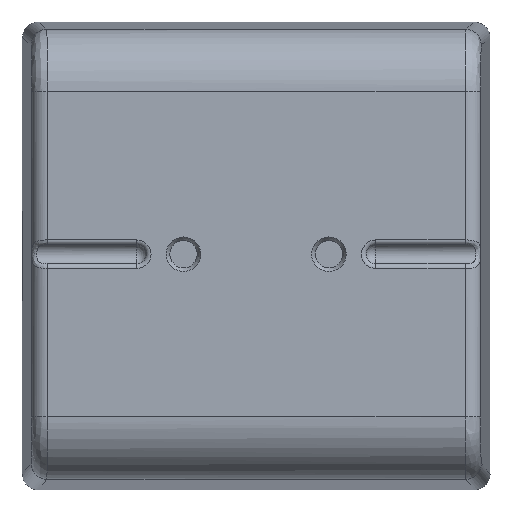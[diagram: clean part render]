
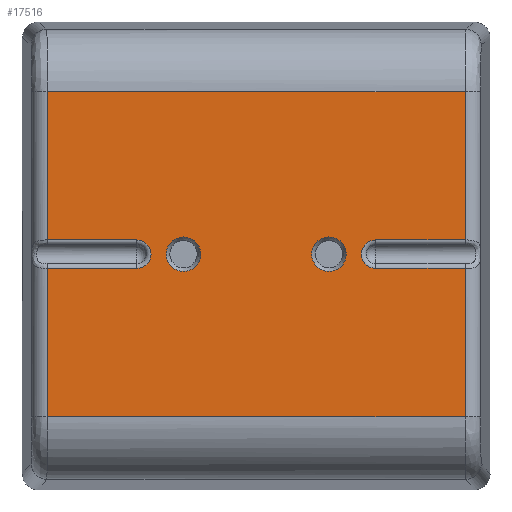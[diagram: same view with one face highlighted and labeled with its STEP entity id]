
A CAD part, top view. The second image highlights one B-rep face of the part: STEP entity #17516.
In plain terms, the highlighted planar face has unit normal (0, 0, 1).
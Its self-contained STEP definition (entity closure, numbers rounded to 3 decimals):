
#172=FACE_BOUND('',#1563,.T.);
#173=FACE_BOUND('',#1564,.T.);
#380=CIRCLE('',#18458,1.659);
#381=CIRCLE('',#18460,1.375);
#382=CIRCLE('',#18461,1.375);
#383=CIRCLE('',#18462,1.659);
#653=FACE_OUTER_BOUND('',#1562,.T.);
#1562=EDGE_LOOP('',(#11538,#11539,#11540,#11541,#11542,#11543,#11544,#11545,
#11546,#11547,#11548,#11549));
#1563=EDGE_LOOP('',(#11550));
#1564=EDGE_LOOP('',(#11551));
#2621=LINE('',#24587,#4925);
#2622=LINE('',#24589,#4926);
#2623=LINE('',#24591,#4927);
#2624=LINE('',#24593,#4928);
#2625=LINE('',#24595,#4929);
#2626=LINE('',#24599,#4930);
#2627=LINE('',#24601,#4931);
#2628=LINE('',#24603,#4932);
#2629=LINE('',#24605,#4933);
#2630=LINE('',#24607,#4934);
#4925=VECTOR('',#19763,8.614);
#4926=VECTOR('',#19764,14.281);
#4927=VECTOR('',#19765,40.228);
#4928=VECTOR('',#19766,14.281);
#4929=VECTOR('',#19767,8.614);
#4930=VECTOR('',#19770,8.614);
#4931=VECTOR('',#19771,14.281);
#4932=VECTOR('',#19772,40.228);
#4933=VECTOR('',#19773,14.281);
#4934=VECTOR('',#19774,8.614);
#7243=VERTEX_POINT('',#24581);
#7244=VERTEX_POINT('',#24585);
#7245=VERTEX_POINT('',#24586);
#7246=VERTEX_POINT('',#24588);
#7247=VERTEX_POINT('',#24590);
#7248=VERTEX_POINT('',#24592);
#7249=VERTEX_POINT('',#24594);
#7250=VERTEX_POINT('',#24596);
#7251=VERTEX_POINT('',#24598);
#7252=VERTEX_POINT('',#24600);
#7253=VERTEX_POINT('',#24602);
#7254=VERTEX_POINT('',#24604);
#7255=VERTEX_POINT('',#24606);
#7256=VERTEX_POINT('',#24609);
#8892=EDGE_CURVE('',#7243,#7243,#380,.T.);
#8893=EDGE_CURVE('',#7244,#7245,#2621,.T.);
#8894=EDGE_CURVE('',#7246,#7244,#2622,.T.);
#8895=EDGE_CURVE('',#7247,#7246,#2623,.T.);
#8896=EDGE_CURVE('',#7248,#7247,#2624,.T.);
#8897=EDGE_CURVE('',#7249,#7248,#2625,.T.);
#8898=EDGE_CURVE('',#7250,#7249,#381,.T.);
#8899=EDGE_CURVE('',#7251,#7250,#2626,.T.);
#8900=EDGE_CURVE('',#7252,#7251,#2627,.T.);
#8901=EDGE_CURVE('',#7253,#7252,#2628,.T.);
#8902=EDGE_CURVE('',#7254,#7253,#2629,.T.);
#8903=EDGE_CURVE('',#7255,#7254,#2630,.T.);
#8904=EDGE_CURVE('',#7245,#7255,#382,.T.);
#8905=EDGE_CURVE('',#7256,#7256,#383,.T.);
#11538=ORIENTED_EDGE('',*,*,#8893,.F.);
#11539=ORIENTED_EDGE('',*,*,#8894,.F.);
#11540=ORIENTED_EDGE('',*,*,#8895,.F.);
#11541=ORIENTED_EDGE('',*,*,#8896,.F.);
#11542=ORIENTED_EDGE('',*,*,#8897,.F.);
#11543=ORIENTED_EDGE('',*,*,#8898,.F.);
#11544=ORIENTED_EDGE('',*,*,#8899,.F.);
#11545=ORIENTED_EDGE('',*,*,#8900,.F.);
#11546=ORIENTED_EDGE('',*,*,#8901,.F.);
#11547=ORIENTED_EDGE('',*,*,#8902,.F.);
#11548=ORIENTED_EDGE('',*,*,#8903,.F.);
#11549=ORIENTED_EDGE('',*,*,#8904,.F.);
#11550=ORIENTED_EDGE('',*,*,#8905,.F.);
#11551=ORIENTED_EDGE('',*,*,#8892,.F.);
#16769=PLANE('',#18459);
#17516=ADVANCED_FACE('',(#653,#172,#173),#16769,.T.);
#18458=AXIS2_PLACEMENT_3D('',#24583,#19759,#19760);
#18459=AXIS2_PLACEMENT_3D('',#24584,#19761,#19762);
#18460=AXIS2_PLACEMENT_3D('',#24597,#19768,#19769);
#18461=AXIS2_PLACEMENT_3D('',#24608,#19775,#19776);
#18462=AXIS2_PLACEMENT_3D('',#24610,#19777,#19778);
#19759=DIRECTION('center_axis',(0.,0.,1.));
#19760=DIRECTION('ref_axis',(0.,1.,0.));
#19761=DIRECTION('center_axis',(0.,0.,1.));
#19762=DIRECTION('ref_axis',(1.,0.,0.));
#19763=DIRECTION('',(-1.,0.,0.));
#19764=DIRECTION('',(0.,-1.,0.));
#19765=DIRECTION('',(1.,0.,0.));
#19766=DIRECTION('',(0.,1.,0.));
#19767=DIRECTION('',(-1.,0.,0.));
#19768=DIRECTION('center_axis',(0.,0.,1.));
#19769=DIRECTION('ref_axis',(1.,0.,0.));
#19770=DIRECTION('',(1.,0.,0.));
#19771=DIRECTION('',(0.,1.,0.));
#19772=DIRECTION('',(-1.,0.,0.));
#19773=DIRECTION('',(0.,-1.,0.));
#19774=DIRECTION('',(1.,0.,0.));
#19775=DIRECTION('center_axis',(0.,0.,1.));
#19776=DIRECTION('ref_axis',(-1.,0.,0.));
#19777=DIRECTION('center_axis',(0.,0.,1.));
#19778=DIRECTION('ref_axis',(0.,1.,0.));
#24581=CARTESIAN_POINT('',(-1.75,4.316,93.627));
#24583=CARTESIAN_POINT('Origin',(-1.75,5.975,93.627));
#24584=CARTESIAN_POINT('Origin',(-8.75,5.975,93.627));
#24585=CARTESIAN_POINT('',(11.364,7.35,93.627));
#24586=CARTESIAN_POINT('',(2.75,7.35,93.627));
#24587=CARTESIAN_POINT('',(11.364,7.35,93.627));
#24588=CARTESIAN_POINT('',(11.364,21.63,93.627));
#24589=CARTESIAN_POINT('',(11.364,21.63,93.627));
#24590=CARTESIAN_POINT('',(-28.864,21.63,93.627));
#24591=CARTESIAN_POINT('',(-28.864,21.63,93.627));
#24592=CARTESIAN_POINT('',(-28.864,7.35,93.627));
#24593=CARTESIAN_POINT('',(-28.864,7.35,93.627));
#24594=CARTESIAN_POINT('',(-20.25,7.35,93.627));
#24595=CARTESIAN_POINT('',(-20.25,7.35,93.627));
#24596=CARTESIAN_POINT('',(-20.25,4.6,93.627));
#24597=CARTESIAN_POINT('Origin',(-20.25,5.975,93.627));
#24598=CARTESIAN_POINT('',(-28.864,4.6,93.627));
#24599=CARTESIAN_POINT('',(-28.864,4.6,93.627));
#24600=CARTESIAN_POINT('',(-28.864,-9.681,93.627));
#24601=CARTESIAN_POINT('',(-28.864,-9.681,93.627));
#24602=CARTESIAN_POINT('',(11.364,-9.681,93.627));
#24603=CARTESIAN_POINT('',(11.364,-9.681,93.627));
#24604=CARTESIAN_POINT('',(11.364,4.6,93.627));
#24605=CARTESIAN_POINT('',(11.364,4.6,93.627));
#24606=CARTESIAN_POINT('',(2.75,4.6,93.627));
#24607=CARTESIAN_POINT('',(2.75,4.6,93.627));
#24608=CARTESIAN_POINT('Origin',(2.75,5.975,93.627));
#24609=CARTESIAN_POINT('',(-15.75,4.316,93.627));
#24610=CARTESIAN_POINT('Origin',(-15.75,5.975,93.627));
